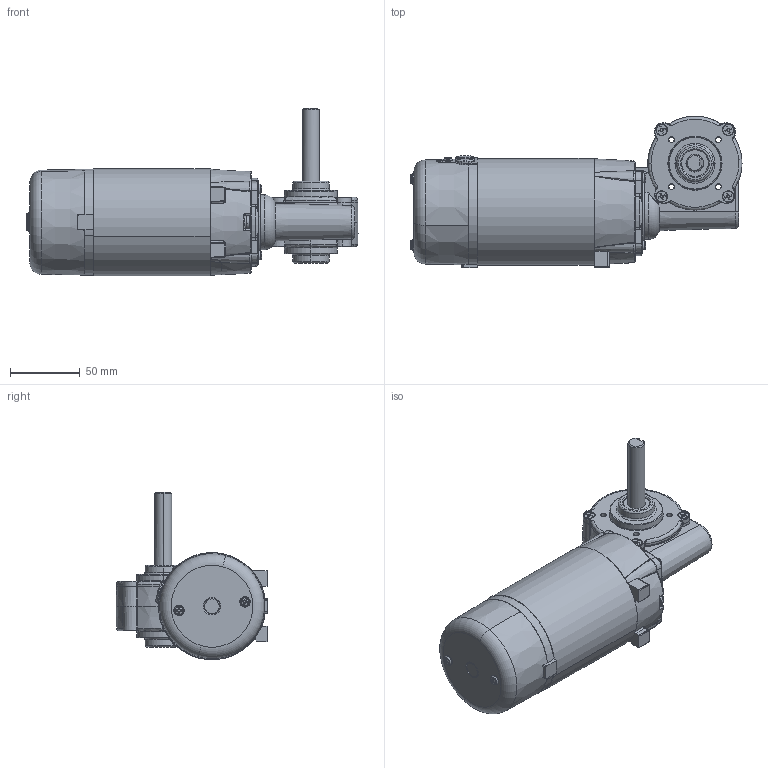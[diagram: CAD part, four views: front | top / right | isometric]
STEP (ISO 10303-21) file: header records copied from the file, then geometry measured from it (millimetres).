
FILE_DESCRIPTION (( 'STEP AP214' ), '1' );
FILE_NAME ('PM5-M.STEP', '2021-07-21T08:47:23', ( '' ), ( '' ), 'SwSTEP 2.0', 'SolidWorks 2020', '' );
FILE_SCHEMA (( 'AUTOMOTIVE_DESIGN' ));
Length unit declared in the file: millimetre
Products named in the file (1): PM5-M
Bounding box: 238.02 x 108.65 x 120.02 mm (x, y, z)
Surface area: 95037.5 mm2 (no closed solid volume)
Topology: 0 solids, 37 shells, 1316 faces, 3819 edges, 2450 vertices
Faces by surface type: cone 379, plane 276, cylinder 252, bspline 224, torus 155, sphere 30
Entity records: 80369 total; most frequent: CARTESIAN_POINT 33754, ORIENTED_EDGE 6857, DIRECTION 6253, EDGE_CURVE 3761, AXIS2_PLACEMENT_3D 2647, VERTEX_POINT 2448, CIRCLE 1554, EDGE_LOOP 1400
